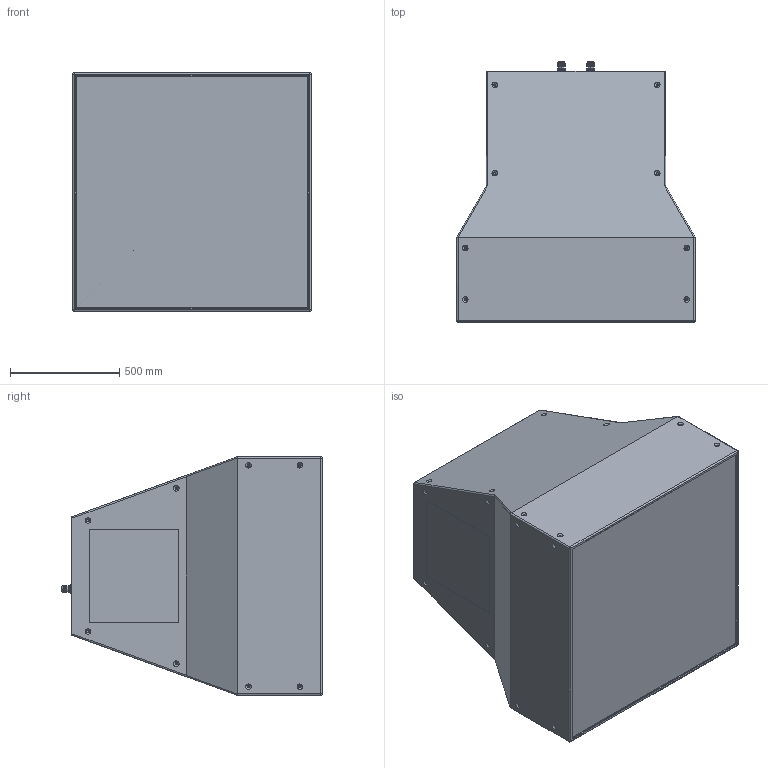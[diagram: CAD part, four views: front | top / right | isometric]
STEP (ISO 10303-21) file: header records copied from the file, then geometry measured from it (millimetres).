
FILE_DESCRIPTION (( 'STEP AP203' ), '1' );
FILE_NAME ('MTS-6154-64 3D CAD.STEP', '2021-03-02T07:35:15', ( '' ), ( '' ), 'SwSTEP 2.0', 'SolidWorks 2019', '' );
FILE_SCHEMA (( 'CONFIG_CONTROL_DESIGN' ));
Length unit declared in the file: millimetre
Products named in the file (1): MTS-6154-64 3D CAD
Bounding box: 1092.2 x 1190.52 x 1092.2 mm (x, y, z)
Volume: 998768838.7 mm3; surface area: 6114740.6 mm2
Topology: 11 solids, 11 shells, 718 faces, 1890 edges, 1168 vertices
Faces by surface type: plane 394, cylinder 168, cone 132, torus 16, sphere 4, bspline 4
Entity records: 22079 total; most frequent: CARTESIAN_POINT 4153, DIRECTION 3904, ORIENTED_EDGE 3644, EDGE_CURVE 1822, AXIS2_PLACEMENT_3D 1407, VERTEX_POINT 1168, VECTOR 1090, LINE 1090
